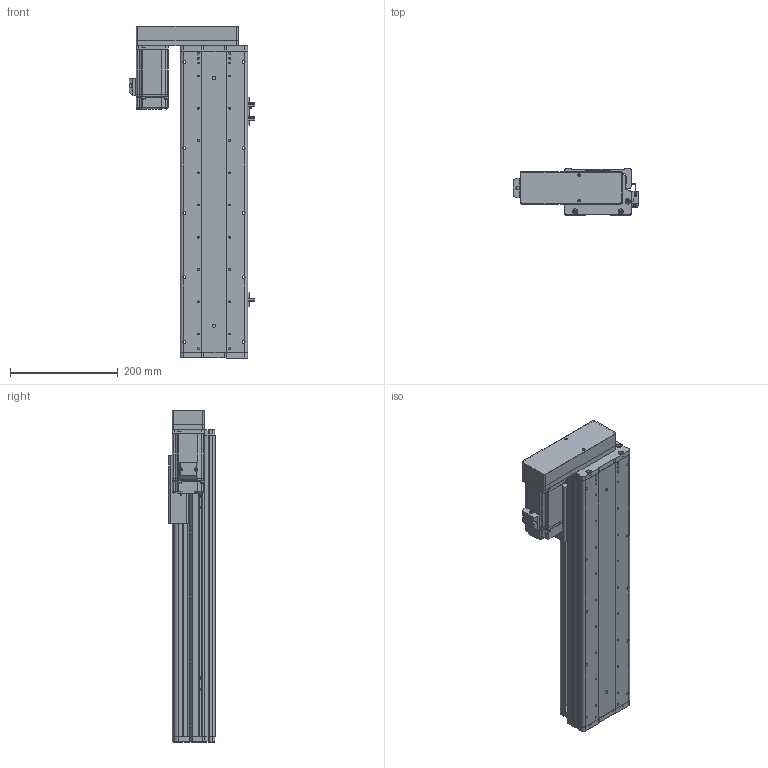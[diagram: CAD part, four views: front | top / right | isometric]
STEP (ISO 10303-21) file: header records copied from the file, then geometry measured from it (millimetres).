
FILE_DESCRIPTION (( 'STEP AP214' ), '1' );
FILE_NAME ('KSD125S-S350-ML-CM.STEP', '2017-10-21T08:30:35', ( '微软用户' ), ( '微软中国' ), 'SwSTEP 2.0', 'SolidWorks 2014', '' );
FILE_SCHEMA (( 'AUTOMOTIVE_DESIGN' ));
Length unit declared in the file: millimetre
Products named in the file (16): 覜茼え68遵圉猾敕; U倰嫖萇EEㄜSX672; HTPA30S3M150_A_H6_a佪裝蚚; HTPA30S3M150_A_H6_a萇儂蚚; 125宽马达安装板连板左右折丝杆; 125悵誘欶酘衵殏; KSD125S-350俴最佪裝滅鳥裔; KSD125S-350俴最佪裝菁啣; MHMD042G1CA_2_03; 拸萇儂釱滅袉菜; 拸萇儂釱滅袉菜-1; U倰嫖萇假蚾璃; ヶ傷啣-125遵耀郪; KSD125-賑雄釱1; 125-帣傷啣1; KSD125S-S350-ML-CM
Assembly tree (19 placements, depth 2):
  KSD125S-S350-ML-CM
    125-帣傷啣1
    KSD125-賑雄釱1
    ヶ傷啣-125遵耀郪
    U倰嫖萇假蚾璃  x3
    拸萇儂釱滅袉菜-1
    拸萇儂釱滅袉菜
    MHMD042G1CA_2_03
    KSD125S-350俴最佪裝菁啣
    KSD125S-350俴最佪裝滅鳥裔
    125悵誘欶酘衵殏
    125宽马达安装板连板左右折丝杆
    HTPA30S3M150_A_H6_a萇儂蚚
    HTPA30S3M150_A_H6_a佪裝蚚
    U倰嫖萇EEㄜSX672  x3
    覜茼え68遵圉猾敕
Bounding box: 234.2 x 86 x 617.5 mm (x, y, z)
Volume: 2242488.3 mm3; surface area: 789786.3 mm2
Topology: 18 solids, 21 shells, 2165 faces, 6273 edges, 4137 vertices
Faces by surface type: cylinder 1346, plane 678, cone 119, bspline 22
Entity records: 76103 total; most frequent: CARTESIAN_POINT 15499, DIRECTION 11887, ORIENTED_EDGE 11054, EDGE_CURVE 5605, AXIS2_PLACEMENT_3D 4587, VERTEX_POINT 3729, VECTOR 2713, LINE 2713
